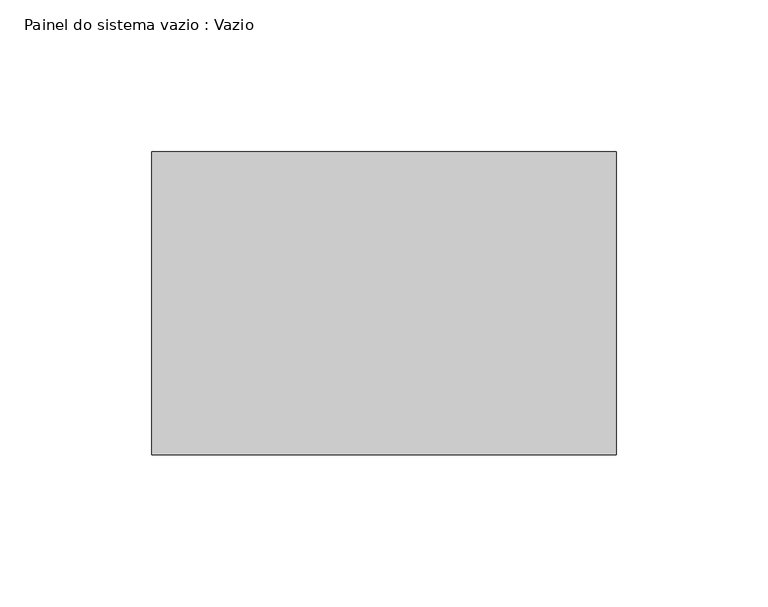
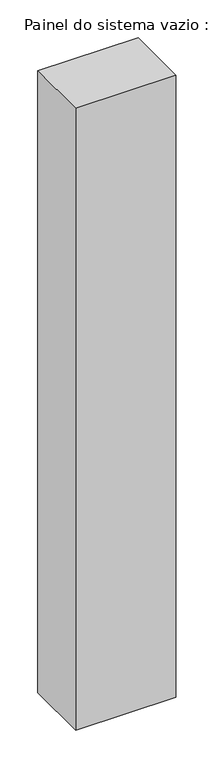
"""IFC4 building model written with IfcOpenShell, lengths in millimetres: plate geometry, Painel do sistema vazio : Vazio."""

from ifc_helpers import new_model, si_unit, origin, origin_with_axes, place, context, project, spatial, polyline, outline, extrude, source, transform, mapped, element, save


def painel_do_sistema_vazio_vazio_954907b5(model_context):
    return source(origin(), model_context, "Body", "SweptSolid", [
        extrude(outline(polyline([(76.6952876, -50.0), (-76.6952876, -50.0), (-76.6952876, 50.0), (76.6952876, 50.0), (76.6952876, -50.0)])), origin_with_axes(), (0.0, 0.0, 1.0), 1005.0),
    ])


if __name__ == "__main__":
    model = new_model("IFC4")
    model_context = context("Model", 3, world=origin())
    ifc_project = project(units=[si_unit("LENGTHUNIT", "METRE", prefix="MILLI")], contexts=[model_context])
    site = spatial("IfcSite", under=ifc_project)
    building = spatial("IfcBuilding", under=site)
    placement = place(None, origin())
    painel_do_sistema_vazio_vazio_shape = painel_do_sistema_vazio_vazio_954907b5(model_context)
    element("IfcPlate", 1, ObjectType="Painel do sistema vazio : Vazio", at=placement, inside=building, context=model_context, shape_type="MappedRepresentation", body=[
        mapped(painel_do_sistema_vazio_vazio_shape, transform((0.0, 0.0, 0.0), x_axis=(1.0, 0.0, 0.0), y_axis=(0.0, 1.0, 0.0), z_axis=(0.0, 0.0, 1.0))),
    ])
    save(model, "model.ifc")
